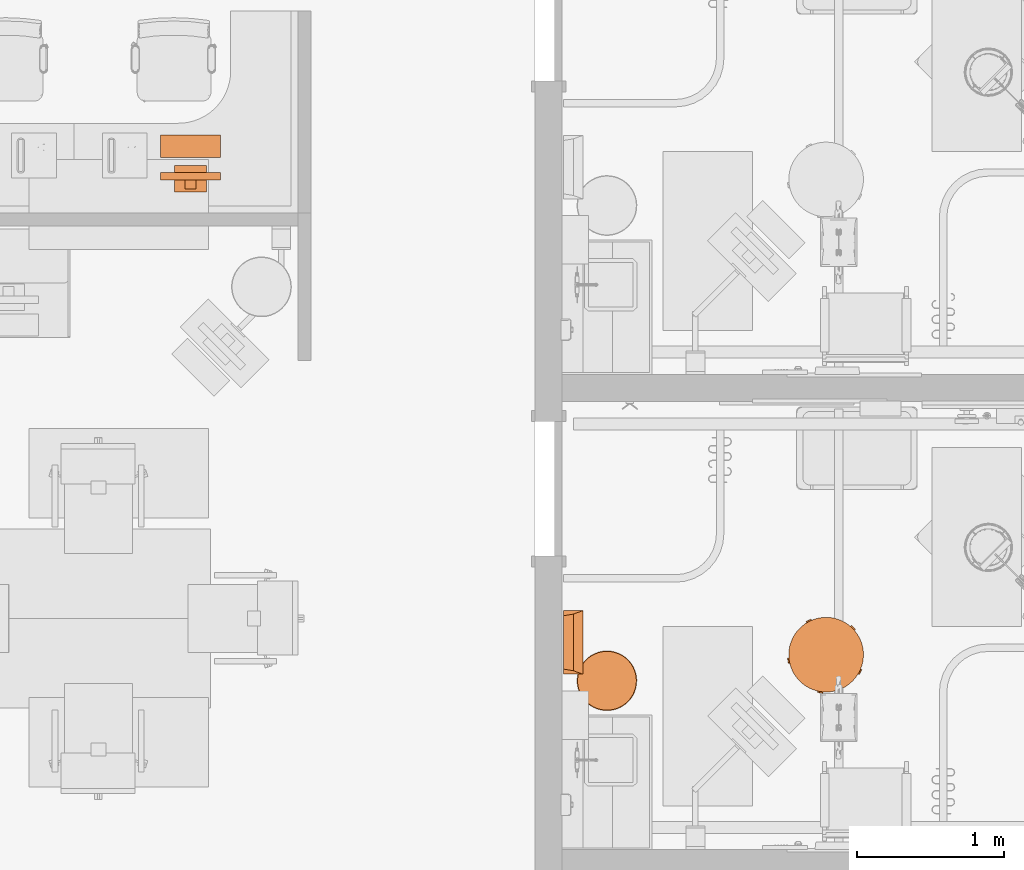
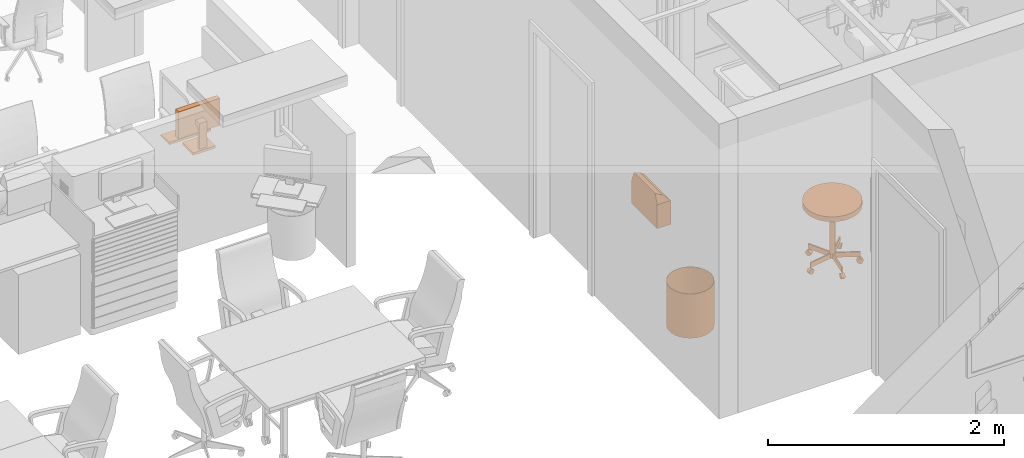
# One storey, part 130 of 142: 4 proxies.
"""IFC2X3 building model written with IfcOpenShell, lengths in feet."""

from ifc_helpers import new_model, entity, si_unit, converted_unit, derived_unit, direction, frame, frame_2d, origin, origin_2d_with_axis, place, context, subcontext, project, spatial, polyline, circle_curve, parameter, trimmed, segment, composite_curve, rectangle, circle, hollow_circle, outline, extrude, faceted_brep, source, transform, mapped, type_object, type_shapes, element, save


model = new_model("IFC2X3")

# Units and contexts
model_context = context("Model", 3, precision=0.0001, world=origin(), true_north=direction((6.12303176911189e-17, 1.0)))
body_context = subcontext(model_context, "Body", "Model", "MODEL_VIEW")
ifc_project = project(units=[converted_unit("LENGTHUNIT", "FOOT", entity("IfcRatioMeasure", 0.3048), si_unit("LENGTHUNIT", "METRE"), dimensions=[1, 0, 0, 0, 0, 0, 0]), converted_unit("AREAUNIT", "SQUARE FOOT", entity("IfcRatioMeasure", 0.09290304), si_unit("AREAUNIT", "SQUARE_METRE"), dimensions=[2, 0, 0, 0, 0, 0, 0]), converted_unit("VOLUMEUNIT", "CUBIC FOOT", entity("IfcRatioMeasure", 0.028316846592), si_unit("VOLUMEUNIT", "CUBIC_METRE"), dimensions=[3, 0, 0, 0, 0, 0, 0]), converted_unit("PLANEANGLEUNIT", "DEGREE", entity("IfcRatioMeasure", 0.0174532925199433), si_unit("PLANEANGLEUNIT", "RADIAN"), dimensions=[0, 0, 0, 0, 0, 0, 0]), si_unit("MASSUNIT", "GRAM", prefix="KILO"), derived_unit("MASSDENSITYUNIT", [(si_unit("MASSUNIT", "GRAM", prefix="KILO"), 1), (si_unit("LENGTHUNIT", "METRE"), -3)]), si_unit("TIMEUNIT", "SECOND"), si_unit("FREQUENCYUNIT", "HERTZ"), si_unit("THERMODYNAMICTEMPERATUREUNIT", "DEGREE_CELSIUS"), derived_unit("THERMALTRANSMITTANCEUNIT", [(si_unit("MASSUNIT", "GRAM", prefix="KILO"), 1), (si_unit("THERMODYNAMICTEMPERATUREUNIT", "KELVIN"), -1), (si_unit("TIMEUNIT", "SECOND"), -3)]), derived_unit("VOLUMETRICFLOWRATEUNIT", [(si_unit("LENGTHUNIT", "METRE"), 3), (si_unit("TIMEUNIT", "SECOND"), -1)]), si_unit("ELECTRICCURRENTUNIT", "AMPERE"), si_unit("ELECTRICVOLTAGEUNIT", "VOLT"), si_unit("POWERUNIT", "WATT"), si_unit("FORCEUNIT", "NEWTON"), si_unit("ILLUMINANCEUNIT", "LUX"), si_unit("LUMINOUSFLUXUNIT", "LUMEN"), si_unit("LUMINOUSINTENSITYUNIT", "CANDELA"), derived_unit("USERDEFINED", [(si_unit("MASSUNIT", "GRAM", prefix="KILO"), -1), (si_unit("LENGTHUNIT", "METRE"), -2), (si_unit("TIMEUNIT", "SECOND"), 3), (si_unit("LUMINOUSFLUXUNIT", "LUMEN"), 1)]), derived_unit("LINEARVELOCITYUNIT", [(si_unit("LENGTHUNIT", "METRE"), 1), (si_unit("TIMEUNIT", "SECOND"), -1)]), si_unit("PRESSUREUNIT", "PASCAL"), derived_unit("USERDEFINED", [(si_unit("LENGTHUNIT", "METRE"), -2), (si_unit("MASSUNIT", "GRAM", prefix="KILO"), 1), (si_unit("TIMEUNIT", "SECOND"), -2)])], contexts=[model_context])

# Site, building, storey, space
site_placement = place(None, origin())
site = spatial("IfcSite", under=ifc_project, at=site_placement, Name="Default", CompositionType="ELEMENT")
building_placement = place(site_placement, origin())
building = spatial("IfcBuilding", under=site, at=building_placement, Name="OUTPATIENT / PACT CLINIC (Ch. 265)", CompositionType="ELEMENT")
storey_placement = place(building_placement, origin())
storey = spatial("IfcBuildingStorey", under=building, at=storey_placement, Name="LEVEL 1", CompositionType="ELEMENT", Elevation=0.0)
space_1_placement = place(storey_placement, origin())
space_1 = spatial("IfcSpace", under=storey, at=space_1_placement, Name="WRTM1", CompositionType="ELEMENT", InteriorOrExteriorSpace="INTERNAL")

# Proxy
building_element_proxy_type_1 = type_object("IfcBuildingElementProxyType", Name="M1801 - Computer with Flat Panel Monitor", PredefinedType="NOTDEFINED")
shared_shape_1 = source(origin(), body_context, "Body", "Brep", [
    faceted_brep([(0.666666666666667, 0.5625, 0.0), (0.666666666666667, 0.5625, 0.0416666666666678), (0.666666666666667, 0.0624999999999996, 0.0833333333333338), (0.666666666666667, 0.0624999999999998, 0.0), (-0.666666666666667, 0.5625, 0.0), (-0.666666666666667, 0.0624999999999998, 0.0), (-0.666666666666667, 0.0624999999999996, 0.0833333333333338), (-0.666666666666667, 0.5625, 0.0416666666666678)], [[[0, 1, 2, 3]], [[4, 5, 6, 7]], [[3, 5, 4, 0]], [[2, 6, 5, 3]], [[1, 7, 6, 2]], [[0, 4, 7, 1]]]),
    faceted_brep([(0.666666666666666, -0.437223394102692, 1.41666666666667), (0.666666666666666, -0.271109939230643, 1.41666666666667), (-0.666666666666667, -0.271109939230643, 1.41666666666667), (-0.666666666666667, -0.437223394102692, 1.41666666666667), (0.666666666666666, -0.437223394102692, 0.500000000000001), (-0.666666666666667, -0.437223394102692, 0.500000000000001), (-0.666666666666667, -0.271109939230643, 0.500000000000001), (0.666666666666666, -0.271109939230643, 0.500000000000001), (-0.625, -0.271109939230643, 1.375), (-0.625, -0.271109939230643, 0.541666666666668), (0.625, -0.271109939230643, 0.541666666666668), (0.625, -0.271109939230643, 1.375), (0.625, -0.286812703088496, 1.375), (-0.625, -0.286812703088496, 1.375), (0.625, -0.286812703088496, 0.541666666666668), (-0.625, -0.286812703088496, 0.541666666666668)], [[[0, 1, 2, 3]], [[4, 5, 6, 7]], [[3, 5, 4, 0]], [[2, 6, 5, 3]], [[8, 9, 10, 11], [1, 7, 6, 2]], [[0, 4, 7, 1]], [[12, 13, 8, 11]], [[14, 10, 9, 15]], [[12, 14, 15, 13]], [[13, 15, 9, 8]], [[11, 10, 14, 12]]], outer=[[True], [True], [True], [True], [False, True], [True], [True], [True], [True], [True], [True]]),
    faceted_brep([(0.358011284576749, -0.111770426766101, 0.0833333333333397), (0.358011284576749, -0.708333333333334, 0.0833333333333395), (0.358011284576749, -0.708333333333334, 0.0), (0.358011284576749, -0.111770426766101, 0.0), (-0.358011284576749, -0.708333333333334, 0.0833333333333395), (-0.358011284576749, -0.111770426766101, 0.0833333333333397), (-0.358011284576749, -0.111770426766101, 0.0), (-0.358011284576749, -0.708333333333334, 0.0), (0.12128795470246, -0.645556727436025, 0.104166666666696), (-0.12128795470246, -0.645556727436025, 0.104166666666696), (-0.12128795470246, -0.645556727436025, 0.0833333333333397), (0.12128795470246, -0.645556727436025, 0.0833333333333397), (0.12128795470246, -0.645556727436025, 0.958333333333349), (-0.12128795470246, -0.645556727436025, 0.958333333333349), (0.12128795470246, -0.437223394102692, 0.958333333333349), (-0.12128795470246, -0.437223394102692, 0.958333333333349), (0.12128795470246, -0.437223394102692, 0.791666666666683), (-0.12128795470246, -0.437223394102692, 0.791666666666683), (0.12128795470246, -0.562223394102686, 0.791666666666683), (-0.12128795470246, -0.562223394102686, 0.791666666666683), (0.12128795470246, -0.562223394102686, 0.0833333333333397), (-0.12128795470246, -0.562223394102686, 0.0833333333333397)], [[[0, 1, 2, 3]], [[4, 5, 6, 7]], [[8, 9, 10, 11]], [[12, 13, 9, 8]], [[14, 15, 13, 12]], [[16, 17, 15, 14]], [[18, 19, 17, 16]], [[20, 21, 19, 18]], [[11, 10, 21, 20], [0, 5, 4, 1]], [[3, 6, 5, 0]], [[2, 7, 6, 3]], [[1, 4, 7, 2]], [[20, 18, 16, 14, 12, 8, 11]], [[10, 9, 13, 15, 17, 19, 21]]], outer=[[True], [True], [True], [True], [True], [True], [True], [True], [False, True], [True], [True], [True], [True], [True]]),
])
type_shapes(building_element_proxy_type_1, [shared_shape_1])
proxy_1_placement = place(space_1_placement, frame((426.961898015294, -888.24701739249, 2.49999999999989)))
element("IfcBuildingElementProxy", 1, at=proxy_1_placement, inside=space_1, type_object=building_element_proxy_type_1, Name="M1801 - Computer with Flat Panel Monitor:M1801 - Computer with Flat Panel Monitor", ObjectType="M1801 - Computer with Flat Panel Monitor", context=body_context, shape_type="MappedRepresentation", body=[
    mapped(shared_shape_1, transform((0.0, 0.0, 0.0), scale=1.0)),
])

# Space
space_2_placement = place(storey_placement, origin())
space_2 = spatial("IfcSpace", under=storey, at=space_2_placement, Name="EXPA1", CompositionType="ELEMENT", InteriorOrExteriorSpace="INTERNAL")

# Proxies
building_element_proxy_type_2 = type_object("IfcBuildingElementProxyType", Name="F2000 - Basket, Wastepaper", PredefinedType="NOTDEFINED")
shared_shape_2 = source(origin(), body_context, "Body", "SweptSolid", [
    extrude(circle(Radius=0.666666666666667, at=frame_2d((0.0, -1.07702971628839e-15), x_axis=(1.0, 0.0))), origin(), (0.0, 0.0, 1.0), 0.0104166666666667),
    extrude(hollow_circle(Radius=0.666666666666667, WallThickness=0.0104166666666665, at=frame_2d((0.0, -1.07702971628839e-15), x_axis=(1.0, 0.0))), frame((0.0, 0.0, 0.0104166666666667)), (0.0, 0.0, 1.0), 1.48958333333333),
])
type_shapes(building_element_proxy_type_2, [shared_shape_2])
proxy_2_placement = place(space_2_placement, frame((436.254976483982, -899.859849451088, 0.0), z_axis=(0.0, 0.0, 1.0), x_axis=(0.0, 1.0, 0.0)))
element("IfcBuildingElementProxy", 2, at=proxy_2_placement, inside=space_2, type_object=building_element_proxy_type_2, Name="F2000 - Basket, Wastepaper:F2000 - Basket, Wastepaper", ObjectType="F2000 - Basket, Wastepaper", context=body_context, shape_type="MappedRepresentation", body=[
    mapped(shared_shape_2, transform((0.0, 0.0, 0.0), scale=1.0)),
])
building_element_proxy_type_3 = type_object("IfcBuildingElementProxyType", Name="A5108 - Waste Disposal Unit, Sharps 17\"x 13\"", PredefinedType="NOTDEFINED")
shared_shape_3 = source(origin(), body_context, "Body", "Brep", [
    faceted_brep([(0.70833333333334, 0.0, 0.0), (-0.708333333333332, 0.0, 0.0), (-0.708333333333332, 0.437500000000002, 0.0), (0.70833333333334, 0.437500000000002, 0.0), (0.70833333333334, 0.437500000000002, 0.810989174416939), (0.70833333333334, 0.0025667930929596, 0.810989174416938), (0.70833333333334, 0.0, 0.808422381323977), (-0.708333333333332, 0.437500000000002, 0.810989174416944), (-0.594042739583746, 0.437500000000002, 1.125), (0.594042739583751, 0.437500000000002, 1.125), (-0.708333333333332, 0.0, 0.808422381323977), (-0.708333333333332, 0.00256679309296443, 0.810989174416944), (0.632497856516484, 0.210923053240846, 1.01934543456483), (-0.632497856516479, 0.210923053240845, 1.01934543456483)], [[[0, 1, 2, 3]], [[0, 3, 4, 5, 6]], [[3, 2, 7, 8, 9, 4]], [[2, 1, 10, 11, 7]], [[1, 0, 6, 10]], [[10, 6, 5, 12, 13, 11]], [[12, 9, 8, 13]], [[5, 4, 9, 12]], [[8, 7, 11, 13]]]),
])
type_shapes(building_element_proxy_type_3, [shared_shape_3])
proxy_3_placement = place(storey_placement, frame((435.718518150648, -899.003851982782, 3.5), z_axis=(0.0, 0.0, 1.0), x_axis=(0.0, 1.0, 0.0)))
element("IfcBuildingElementProxy", 3, at=proxy_3_placement, inside=storey, type_object=building_element_proxy_type_3, Name="A5108 - Waste Disposal Unit, Sharps1:A5108 - Waste Disposal Unit, Sharps 17\"x 13\"", ObjectType="A5108 - Waste Disposal Unit, Sharps 17\"x 13\"", context=body_context, shape_type="MappedRepresentation", body=[
    mapped(shared_shape_3, transform((0.0, 0.0, 0.0), scale=1.0)),
])
building_element_proxy_type_4 = type_object("IfcBuildingElementProxyType", Name="F0340 - Stool, Self Adjusting", PredefinedType="NOTDEFINED")
shared_shape_4 = source(origin(), body_context, "Body", "SweptSolid", [
    extrude(circle(Radius=0.084518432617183, at=frame_2d((0.0, -1.38777878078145e-16), x_axis=(1.0, 0.0))), frame((0.717011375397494, 0.287734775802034, 0.0845184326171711), z_axis=(0.309016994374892, -0.951056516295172, 0.0), x_axis=(-0.951056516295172, -0.309016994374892, 0.0)), (0.0, 0.0, 1.0), 0.104166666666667),
    extrude(outline(composite_curve([segment(polyline([(-0.0925649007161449, 0.0), (0.0925649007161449, 0.0)]), True, "CONTINUOUS"), segment(trimmed(circle_curve(origin_2d_with_axis(), 0.0925649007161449), [parameter(2.03555499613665e-13)], [parameter(180.0)], True, "PARAMETER"), True, "CONTINUOUS")], self_intersect=False)), frame((0.752419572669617, 0.178759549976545, 0.0845184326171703), z_axis=(-0.309016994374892, 0.951056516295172, 0.0), x_axis=(-0.951056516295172, -0.309016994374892, 0.0)), (0.0, 0.0, 1.0), 0.125),
    extrude(circle(Radius=0.0115130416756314, at=frame_2d((7.9106571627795e-18, 1.14165428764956e-16), x_axis=(1.0, 0.0))), frame((0.73310678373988, 0.238198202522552, 0.177083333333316), z_axis=(0.0, 0.0, 1.0), x_axis=(0.309016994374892, -0.951056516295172, 0.0)), (0.0, 0.0, 1.0), 0.0442708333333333),
    extrude(rectangle(XDim=0.0416641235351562, YDim=0.7059128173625, at=frame_2d((1.38777878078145e-17, 0.0), x_axis=(1.0, 0.0))), frame((0.412570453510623, 0.134049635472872, 0.221354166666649), z_axis=(0.0, 0.0, 1.0), x_axis=(-0.309016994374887, 0.951056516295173, 0.0)), (0.0, 0.0, 1.0), 0.166666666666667),
    extrude(circle(Radius=0.084518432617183, at=frame_2d((0.0, -3.7470027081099e-16), x_axis=(1.0, 0.0))), frame((0.410948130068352, -0.654231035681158, 0.0845184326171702), z_axis=(0.809016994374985, 0.587785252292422, 0.0), x_axis=(-0.587785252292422, 0.809016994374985, 0.0)), (0.0, 0.0, 1.0), 0.104166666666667),
    extrude(outline(composite_curve([segment(polyline([(-0.0925649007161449, 0.0), (0.0925649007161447, 0.0)]), True, "CONTINUOUS"), segment(trimmed(circle_curve(origin_2d_with_axis(), 0.0925649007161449), [parameter(2.03555499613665e-13)], [parameter(180.0)], True, "PARAMETER"), True, "CONTINUOUS")], self_intersect=False)), frame((0.402520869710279, -0.660353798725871, 0.0845184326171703), z_axis=(0.809016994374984, 0.587785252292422, 0.0), x_axis=(-0.587785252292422, 0.809016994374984, 0.0)), (0.0, 0.0, 1.0), 0.125),
    extrude(circle(Radius=0.0115130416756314, at=origin_2d_with_axis()), frame((0.453082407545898, -0.623618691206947, 0.177083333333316), z_axis=(0.0, 0.0, 1.0), x_axis=(-0.809016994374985, -0.587785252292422, 0.0)), (0.0, 0.0, 1.0), 0.0442708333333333),
    extrude(rectangle(XDim=0.0416641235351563, YDim=0.705912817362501, at=frame_2d((0.0, -1.38777878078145e-16), x_axis=(1.0, 0.0))), frame((0.254980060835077, -0.350954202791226, 0.221354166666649), z_axis=(0.0, 0.0, 1.0), x_axis=(0.809016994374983, 0.587785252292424, 0.0)), (0.0, 0.0, 1.0), 0.166666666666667),
    extrude(circle(Radius=0.084518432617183, at=frame_2d((-3.2628636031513e-17, -1.38777878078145e-16), x_axis=(1.0, 0.0))), frame((-0.410948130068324, -0.654231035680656, 0.0845184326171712), z_axis=(-0.809016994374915, 0.587785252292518, 0.0), x_axis=(0.587785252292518, 0.809016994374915, 0.0)), (0.0, 0.0, 1.0), 0.104166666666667),
    extrude(outline(composite_curve([segment(trimmed(circle_curve(origin_2d_with_axis(), 0.0925649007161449), [parameter(180.0)], [parameter(360.0)], True, "PARAMETER"), True, "CONTINUOUS"), segment(polyline([(0.0925649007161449, 0.0), (-0.0925649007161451, 0.0)]), True, "CONTINUOUS")], self_intersect=False)), frame((-0.402520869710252, -0.66035379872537, 0.0845184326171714), z_axis=(-0.809016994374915, 0.587785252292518, 0.0), x_axis=(0.587785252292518, 0.809016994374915, 0.0)), (0.0, 0.0, 1.0), 0.125),
    extrude(circle(Radius=0.0115130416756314, at=frame_2d((-4.49094647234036e-17, -3.2628636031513e-17), x_axis=(1.0, 0.0))), frame((-0.453086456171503, -0.623615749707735, 0.177083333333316), z_axis=(0.0, 0.0, 1.0), x_axis=(-0.809016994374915, 0.587785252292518, 0.0)), (0.0, 0.0, 1.0), 0.0442708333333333),
    extrude(rectangle(XDim=0.0416641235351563, YDim=0.7059128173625, at=frame_2d((-4.16333634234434e-17, 5.55111512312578e-17), x_axis=(1.0, 0.0))), frame((-0.254984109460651, -0.350951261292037, 0.221354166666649), z_axis=(0.0, 0.0, 1.0), x_axis=(0.809016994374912, -0.587785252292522, 0.0)), (0.0, 0.0, 1.0), 0.166666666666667),
    extrude(circle(Radius=0.084518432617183, at=frame_2d((0.0, -1.38777878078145e-16), x_axis=(1.0, 0.0))), frame((-0.749200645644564, 0.188666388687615, 0.0845184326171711), z_axis=(0.309016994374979, 0.951056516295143, 0.0), x_axis=(0.951056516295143, -0.309016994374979, 0.0)), (0.0, 0.0, 1.0), 0.104166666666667),
    extrude(outline(composite_curve([segment(trimmed(circle_curve(origin_2d_with_axis(), 0.0925649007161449), [parameter(180.0)], [parameter(360.0)], True, "PARAMETER"), True, "CONTINUOUS"), segment(polyline([(0.0925649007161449, 0.0), (-0.0925649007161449, 0.0)]), True, "CONTINUOUS")], self_intersect=False)), frame((-0.752419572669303, 0.178759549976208, 0.0845184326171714), z_axis=(0.309016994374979, 0.951056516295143, 0.0), x_axis=(0.951056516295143, -0.309016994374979, 0.0)), (0.0, 0.0, 1.0), 0.125),
    extrude(circle(Radius=0.0115130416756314, at=frame_2d((7.91065716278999e-18, -1.14165428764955e-16), x_axis=(1.0, 0.0))), frame((-0.733105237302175, 0.238202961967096, 0.177083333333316), z_axis=(0.0, 0.0, 1.0), x_axis=(0.309016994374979, 0.951056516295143, 0.0)), (0.0, 0.0, 1.0), 0.0442708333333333),
    extrude(rectangle(XDim=0.0416641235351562, YDim=0.7059128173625, at=origin_2d_with_axis()), frame((-0.412568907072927, 0.134054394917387, 0.221354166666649), z_axis=(0.0, 0.0, 1.0), x_axis=(-0.309016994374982, -0.951056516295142, 0.0)), (0.0, 0.0, 1.0), 0.166666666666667),
    extrude(circle(Radius=0.084518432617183, at=frame_2d((-1.76415182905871e-31, -1.38777878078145e-16), x_axis=(1.0, 0.0))), frame((-0.0520833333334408, 0.770833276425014, 0.0845184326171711), z_axis=(1.0, 0.0, 0.0), x_axis=(0.0, -1.0, 0.0)), (0.0, 0.0, 1.0), 0.104166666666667),
    extrude(outline(composite_curve([segment(trimmed(circle_curve(origin_2d_with_axis(), 0.0925649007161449), [parameter(180.0)], [parameter(360.0)], True, "PARAMETER"), True, "CONTINUOUS"), segment(polyline([(0.0925649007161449, 0.0), (-0.0925649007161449, 0.0)]), True, "CONTINUOUS")], self_intersect=False)), frame((-0.0625000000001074, 0.770833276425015, 0.0845184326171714), z_axis=(1.0, 0.0, 0.0), x_axis=(0.0, -1.0, 0.0)), (0.0, 0.0, 1.0), 0.125),
    extrude(circle(Radius=0.0115130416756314, at=frame_2d((7.04731412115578e-19, 1.79171670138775e-32), x_axis=(1.0, 0.0))), frame((2.50218814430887e-06, 0.770833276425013, 0.177083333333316)), (0.0, 0.0, 1.0), 0.0442708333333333),
    extrude(rectangle(XDim=0.0416641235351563, YDim=0.7059128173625, at=frame_2d((3.46944695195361e-18, 5.55111512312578e-17), x_axis=(1.0, 0.0))), frame((2.50218813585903e-06, 0.433801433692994, 0.221354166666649), z_axis=(0.0, 0.0, 1.0), x_axis=(-1.0, 0.0, 0.0)), (0.0, 0.0, 1.0), 0.166666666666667),
    extrude(circle(Radius=0.0834863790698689, at=frame_2d((2.89333175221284e-18, -1.34875966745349e-16), x_axis=(1.0, 0.0))), frame((0.0, 0.0, 0.221354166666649)), (0.0, 0.0, 1.0), 1.77864583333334),
    extrude(circle(Radius=0.833333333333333, at=frame_2d((2.28760446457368e-17, -1.34628714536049e-15), x_axis=(1.0, 0.0))), frame((0.0, 0.0, 2.0)), (0.0, 0.0, 1.0), 0.166666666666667),
])
type_shapes(building_element_proxy_type_4, [shared_shape_4])
proxy_4_placement = place(space_2_placement, frame((441.145232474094, -899.278179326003, 0.0), z_axis=(0.0, 0.0, 1.0), x_axis=(0.707106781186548, -0.707106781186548, 0.0)))
element("IfcBuildingElementProxy", 4, at=proxy_4_placement, inside=space_2, type_object=building_element_proxy_type_4, Name="F0340 - Stool, Self Adjusting:F0340 - Stool, Self Adjusting", ObjectType="F0340 - Stool, Self Adjusting", context=body_context, shape_type="MappedRepresentation", body=[
    mapped(shared_shape_4, transform((0.0, 0.0, 0.0), scale=1.0)),
])

save(model, "model.ifc")
